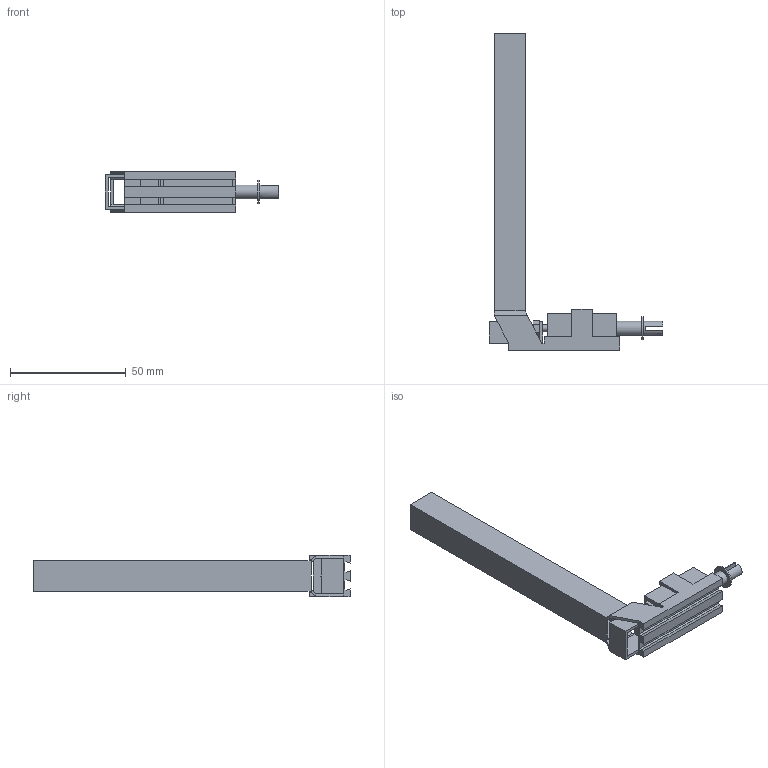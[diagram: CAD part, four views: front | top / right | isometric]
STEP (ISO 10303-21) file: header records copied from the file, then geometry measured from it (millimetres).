
FILE_DESCRIPTION(/* description */ (''),/* implementation_level */ '2;1');
FILE_NAME(/* name */ 'C:/Users/priba/Downloads/dispenser.step',/* time_stamp */ '2020-06-14T08:43:30+02:00',/* author */ (''),/* organization */ (''),/* preprocessor_version */ 'ST-DEVELOPER v18.1',/* originating_system */ 'Autodesk Translation Framework v9.3.0.1241',/* authorisation */ '');
FILE_SCHEMA (('AUTOMOTIVE_DESIGN { 1 0 10303 214 3 1 1 }'));
Length unit declared in the file: millimetre
Products named in the file (7): dispenser; Drawer; Electromagnet; Solenid; Shaft; mrm-nut-m3nyl; MainBody
Assembly tree (6 placements, depth 4):
  dispenser
    Drawer
    Electromagnet
      Solenid
      Shaft
        mrm-nut-m3nyl
    MainBody
Bounding box: 75 x 137 x 17.8 mm (x, y, z)
Volume: 16180.6 mm3; surface area: 21634.7 mm2
Topology: 5 solids, 5 shells, 111 faces, 278 edges, 178 vertices
Faces by surface type: plane 102, cylinder 9
Full cylindrical faces by diameter (mm): 2.927 x1, 3 x1, 3.05 x2, 6 x2, 6.05 x1, 10 x1
Entity records: 3441 total; most frequent: CARTESIAN_POINT 580, ORIENTED_EDGE 556, DIRECTION 548, EDGE_CURVE 278, LINE 256, VECTOR 256, VERTEX_POINT 178, AXIS2_PLACEMENT_3D 146
